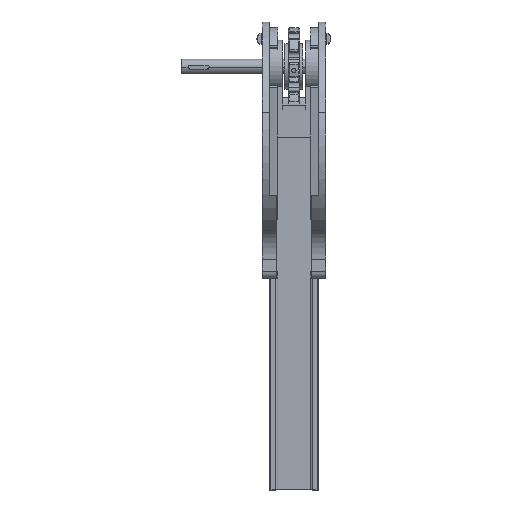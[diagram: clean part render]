
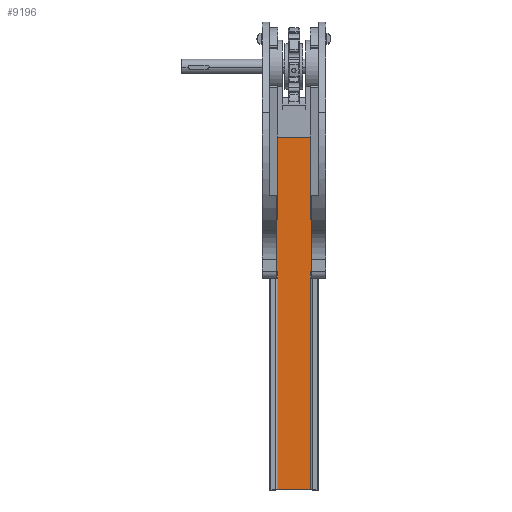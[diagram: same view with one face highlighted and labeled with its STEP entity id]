
A CAD part, front view. The second image highlights one B-rep face of the part: STEP entity #9196.
In plain terms, the highlighted planar face has unit normal (0, -1, 0).
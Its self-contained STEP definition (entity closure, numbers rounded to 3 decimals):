
#1004 = CARTESIAN_POINT ( 'NONE',  ( -29.5, 3.7, -600. ) ) ;
#1005 = DIRECTION ( 'NONE',  ( -1., 0., 0. ) ) ;
#1006 = CARTESIAN_POINT ( 'NONE',  ( -35., 3.7, -600. ) ) ;
#1007 = DIRECTION ( 'NONE',  ( 0., 0., 1. ) ) ;
#1008 = CARTESIAN_POINT ( 'NONE',  ( -29.5, 3.7, -100. ) ) ;
#1009 = DIRECTION ( 'NONE',  ( 1., 0., 0. ) ) ;
#1014 = CARTESIAN_POINT ( 'NONE',  ( -29.5, 3.7, -300. ) ) ;
#1015 = DIRECTION ( 'NONE',  ( -1., 0., 0. ) ) ;
#1024 = CARTESIAN_POINT ( 'NONE',  ( 35., 3.7, -600. ) ) ;
#1025 = DIRECTION ( 'NONE',  ( 0., 0., -1. ) ) ;
#1166 = CARTESIAN_POINT ( 'NONE',  ( 29.5, 3.7, -600. ) ) ;
#1167 = DIRECTION ( 'NONE',  ( 0., 0., -1. ) ) ;
#1187 = CARTESIAN_POINT ( 'NONE',  ( -29.5, 3.7, -300. ) ) ;
#1188 = DIRECTION ( 'NONE',  ( -1., 0., 0. ) ) ;
#1203 = CARTESIAN_POINT ( 'NONE',  ( -29.5, 3.7, -600. ) ) ;
#1204 = DIRECTION ( 'NONE',  ( 0., 0., 1. ) ) ;
#3581 = AXIS2_PLACEMENT_3D ( 'NONE', #4147, #4148, #4149 ) ;
#4146 = PLANE ( 'NONE',  #3581 ) ;
#4147 = CARTESIAN_POINT ( 'NONE',  ( -29.5, 3.7, -600. ) ) ;
#4148 = DIRECTION ( 'NONE',  ( 0., 1., 0. ) ) ;
#4149 = DIRECTION ( 'NONE',  ( 0., 0., -1. ) ) ;
#5011 = VERTEX_POINT ( 'NONE', #15170 ) ;
#5504 = FACE_OUTER_BOUND ( 'NONE', #10110, .T. ) ;
#6839 = CARTESIAN_POINT ( 'NONE',  ( 29.5, 3.7, -300. ) ) ;
#6842 = CARTESIAN_POINT ( 'NONE',  ( 29.5, 3.7, -600. ) ) ;
#7034 = CARTESIAN_POINT ( 'NONE',  ( 35., 3.7, -100. ) ) ;
#7040 = CARTESIAN_POINT ( 'NONE',  ( 35., 3.7, -300. ) ) ;
#7049 = CARTESIAN_POINT ( 'NONE',  ( -29.5, 3.7, -300. ) ) ;
#7055 = CARTESIAN_POINT ( 'NONE',  ( -29.5, 3.7, -600. ) ) ;
#7062 = CARTESIAN_POINT ( 'NONE',  ( -35., 3.7, -300. ) ) ;
#7880 = LINE ( 'NONE', #1004, #7881 ) ;
#7881 = VECTOR ( 'NONE', #1005, 1000. ) ;
#7882 = LINE ( 'NONE', #1006, #7883 ) ;
#7883 = VECTOR ( 'NONE', #1007, 1000. ) ;
#7884 = LINE ( 'NONE', #1008, #7885 ) ;
#7885 = VECTOR ( 'NONE', #1009, 1000. ) ;
#7890 = LINE ( 'NONE', #1014, #7891 ) ;
#7891 = VECTOR ( 'NONE', #1015, 1000. ) ;
#7900 = LINE ( 'NONE', #1024, #7901 ) ;
#7901 = VECTOR ( 'NONE', #1025, 1000. ) ;
#7985 = LINE ( 'NONE', #1166, #7987 ) ;
#7987 = VECTOR ( 'NONE', #1167, 1000. ) ;
#8005 = LINE ( 'NONE', #1187, #8006 ) ;
#8006 = VECTOR ( 'NONE', #1188, 1000. ) ;
#8021 = LINE ( 'NONE', #1203, #8022 ) ;
#8022 = VECTOR ( 'NONE', #1204, 1000. ) ;
#9196 = ADVANCED_FACE ( 'NONE', ( #5504 ), #4146, .F. ) ;
#10110 = EDGE_LOOP ( 'NONE', ( #17421, #17419, #17417, #17415, #17413, #17336, #17351, #17347 ) ) ;
#12933 = EDGE_CURVE ( 'NONE', #15155, #15830, #7880, .T. ) ;
#12934 = EDGE_CURVE ( 'NONE', #15837, #5011, #7882, .T. ) ;
#12935 = EDGE_CURVE ( 'NONE', #5011, #15809, #7884, .T. ) ;
#12938 = EDGE_CURVE ( 'NONE', #15815, #15144, #7890, .T. ) ;
#12943 = EDGE_CURVE ( 'NONE', #15809, #15815, #7900, .T. ) ;
#13000 = EDGE_CURVE ( 'NONE', #15144, #15155, #7985, .T. ) ;
#13010 = EDGE_CURVE ( 'NONE', #15824, #15837, #8005, .T. ) ;
#13018 = EDGE_CURVE ( 'NONE', #15830, #15824, #8021, .T. ) ;
#15144 = VERTEX_POINT ( 'NONE', #6839 ) ;
#15155 = VERTEX_POINT ( 'NONE', #6842 ) ;
#15170 = CARTESIAN_POINT ( 'NONE',  ( -35., 3.7, -100. ) ) ;
#15809 = VERTEX_POINT ( 'NONE', #7034 ) ;
#15815 = VERTEX_POINT ( 'NONE', #7040 ) ;
#15824 = VERTEX_POINT ( 'NONE', #7049 ) ;
#15830 = VERTEX_POINT ( 'NONE', #7055 ) ;
#15837 = VERTEX_POINT ( 'NONE', #7062 ) ;
#17336 = ORIENTED_EDGE ( 'NONE', *, *, #13018, .F. ) ;
#17347 = ORIENTED_EDGE ( 'NONE', *, *, #13000, .F. ) ;
#17351 = ORIENTED_EDGE ( 'NONE', *, *, #12933, .F. ) ;
#17413 = ORIENTED_EDGE ( 'NONE', *, *, #13010, .F. ) ;
#17415 = ORIENTED_EDGE ( 'NONE', *, *, #12934, .F. ) ;
#17417 = ORIENTED_EDGE ( 'NONE', *, *, #12935, .F. ) ;
#17419 = ORIENTED_EDGE ( 'NONE', *, *, #12943, .F. ) ;
#17421 = ORIENTED_EDGE ( 'NONE', *, *, #12938, .F. ) ;
